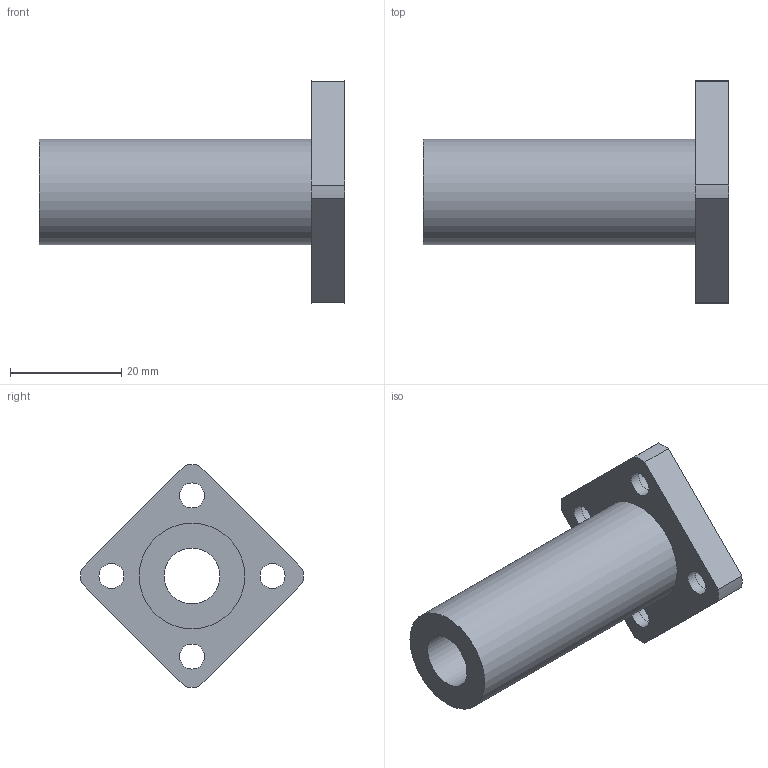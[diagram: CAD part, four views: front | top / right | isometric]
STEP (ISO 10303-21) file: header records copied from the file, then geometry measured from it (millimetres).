
FILE_DESCRIPTION(/* description */ ('Unknown'),/* implementation_level */ '2;1');
FILE_NAME(/* name */ 'LMK10LUU',/* time_stamp */ '2025-02-04T10:38:05+08:00',/* author */ ('Unknown'),/* organization */ ('Unknown'),/* preprocessor_version */ 'ST-DEVELOPER v18.102',/* originating_system */ 'Solid Edge',/* authorisation */ 'Unknown');
FILE_SCHEMA (('AUTOMOTIVE_DESIGN {1 0 10303 214 3 1 1}'));
Length unit declared in the file: millimetre
Products named in the file (1): LMK10LUU
Bounding box: 55 x 39.99 x 39.99 mm (x, y, z)
Volume: 14091.7 mm3; surface area: 7345.4 mm2
Topology: 1 solids, 1 shells, 25 faces, 54 edges, 36 vertices
Faces by surface type: cylinder 14, plane 11
Full cylindrical faces by diameter (mm): 4.5 x4, 7.5 x4, 10 x1, 19 x1
Entity records: 696 total; most frequent: DIRECTION 124, CARTESIAN_POINT 106, ORIENTED_EDGE 88, AXIS2_PLACEMENT_3D 54, EDGE_LOOP 50, FACE_BOUND 50, EDGE_CURVE 44, VERTEX_POINT 36
